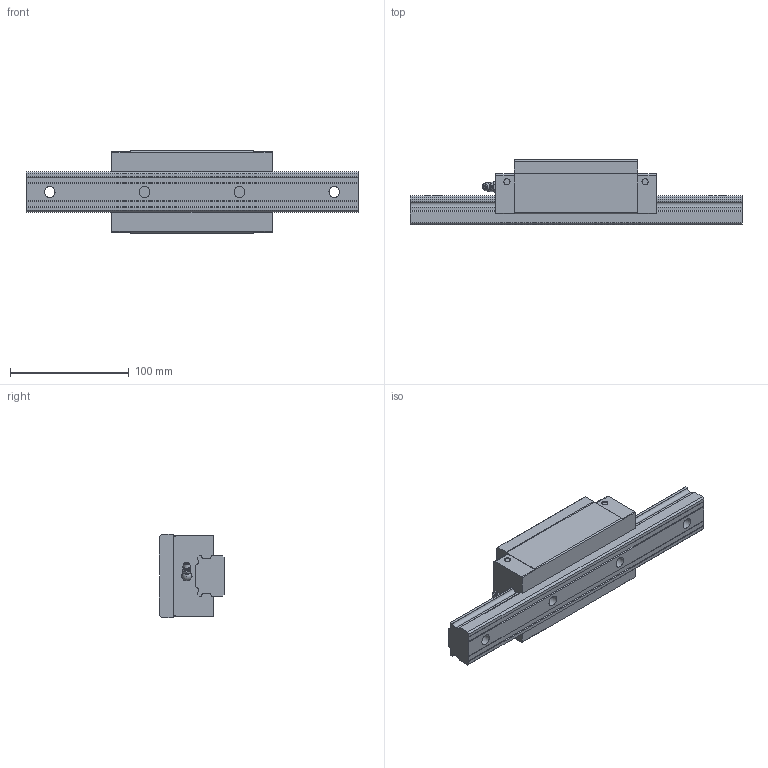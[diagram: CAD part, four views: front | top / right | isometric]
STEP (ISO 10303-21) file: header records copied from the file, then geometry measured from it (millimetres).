
FILE_DESCRIPTION(/* description */ ('STEP AP203'),/* implementation_level */ '2;1');
FILE_NAME(/* name */ 'SVR35LRH1SS-280L_G20_0_B-M6F_72-5_0_0_0_1',/* time_stamp */ '2024-05-17T07:28:48+02:00',/* author */ ('License CC BY-ND 4.0'),/* organization */ ('CADENAS'),/* preprocessor_version */ 'ST-DEVELOPER v19.3',/* originating_system */ 'PARTsolutions',/* authorisation */ ' ');
FILE_SCHEMA (('CONFIG_CONTROL_DESIGN'));
Length unit declared in the file: millimetre
Products named in the file (4): SVR35LRH1SS-280L_G20_0_B-M6F_72-5_0_0_0_1; SVR 35LRH28020 R Track; SVR 35LRH1SSB-M6F1 Slide; B-M6F_grease_nipple_joint1_SVR
Assembly tree (3 placements, depth 2):
  SVR35LRH1SS-280L_G20_0_B-M6F_72-5_0_0_0_1
    SVR 35LRH28020 R Track
    SVR 35LRH1SSB-M6F1 Slide
    B-M6F_grease_nipple_joint1_SVR
Bounding box: 280 x 55 x 70 mm (x, y, z)
Volume: 540237.7 mm3; surface area: 79961.2 mm2
Topology: 3 solids, 3 shells, 182 faces, 484 edges, 317 vertices
Faces by surface type: plane 100, cylinder 56, cone 21, sphere 3, torus 2
Full cylindrical faces by diameter (mm): 4.917 x2, 5.2 x4, 6 x1, 6.647 x4, 8 x1, 9 x4, 14 x4
Entity records: 5481 total; most frequent: CARTESIAN_POINT 1017, DIRECTION 912, ORIENTED_EDGE 852, EDGE_CURVE 426, AXIS2_PLACEMENT_3D 324, VERTEX_POINT 305, LINE 264, VECTOR 264
